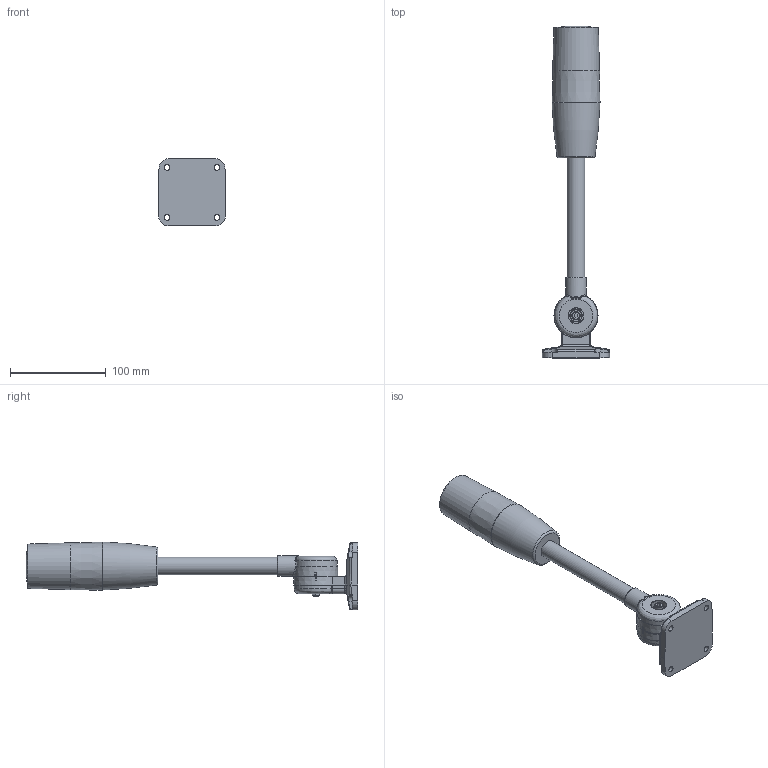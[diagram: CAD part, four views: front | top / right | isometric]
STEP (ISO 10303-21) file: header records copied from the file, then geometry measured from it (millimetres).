
FILE_DESCRIPTION (( 'STEP AP203' ), '1' );
FILE_NAME ('MC50-S.STEP', '2025-05-29T13:00:08', ( '' ), ( '' ), 'SwSTEP 2.0', 'SolidWorks 2024', '' );
FILE_SCHEMA (( 'CONFIG_CONTROL_DESIGN' ));
Length unit declared in the file: millimetre
Products named in the file (5): MC50-S; MC50-SW; Swivel-top; Swivel-Bottom; ASW
Assembly tree (4 placements, depth 3):
  MC50-S
    MC50-SW
    ASW
      Swivel-Bottom
      Swivel-top
Bounding box: 70 x 346.05 x 70.78 mm (x, y, z)
Volume: 400129.5 mm3; surface area: 115046.6 mm2
Topology: 6 solids, 6 shells, 384 faces, 966 edges, 603 vertices
Faces by surface type: bspline 125, plane 111, cylinder 105, cone 34, torus 9
Full cylindrical faces by diameter (mm): 5.2 x1, 6 x4, 8.5 x1, 13 x1, 16 x2, 18.3 x2, 18.5 x1, 21.6 x1, 45.5 x2
Entity records: 21737 total; most frequent: CARTESIAN_POINT 13813, ORIENTED_EDGE 1818, DIRECTION 1086, EDGE_CURVE 909, VERTEX_POINT 588, EDGE_LOOP 443, AXIS2_PLACEMENT_3D 415, FACE_OUTER_BOUND 413
